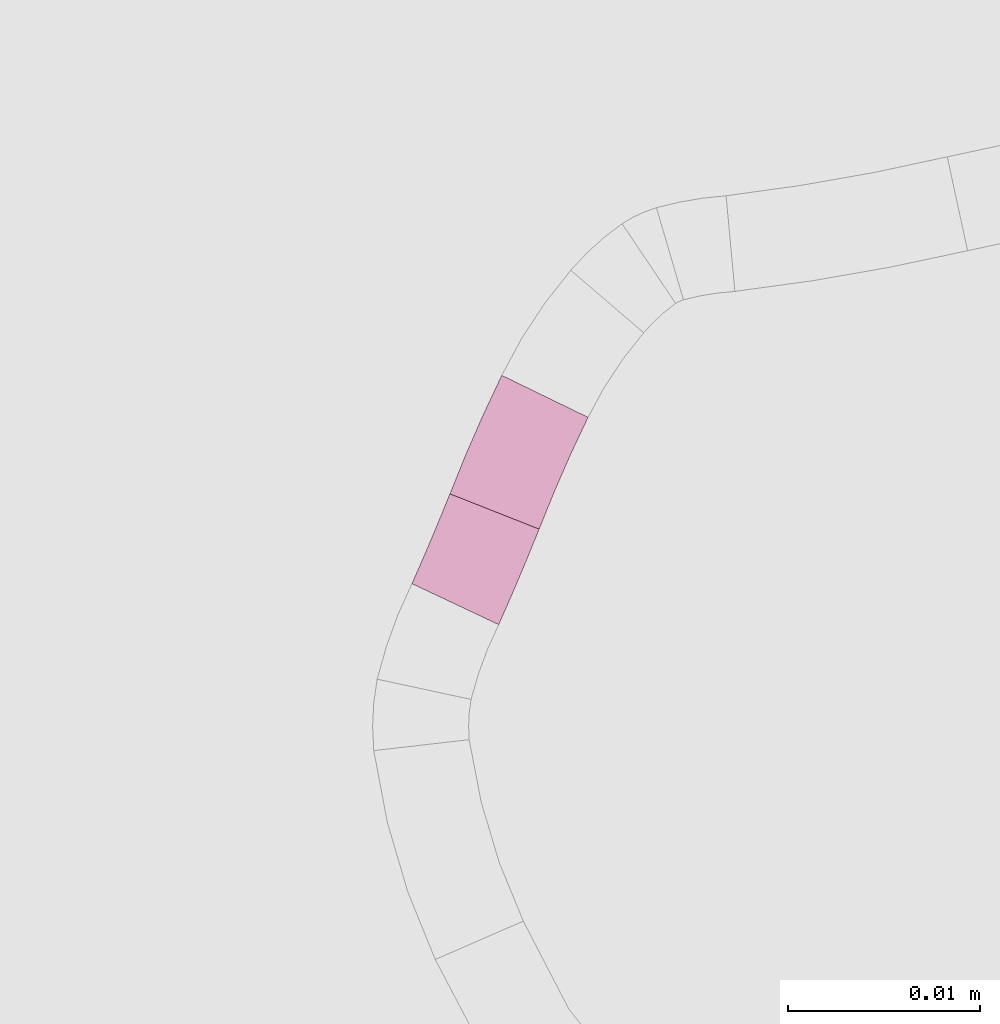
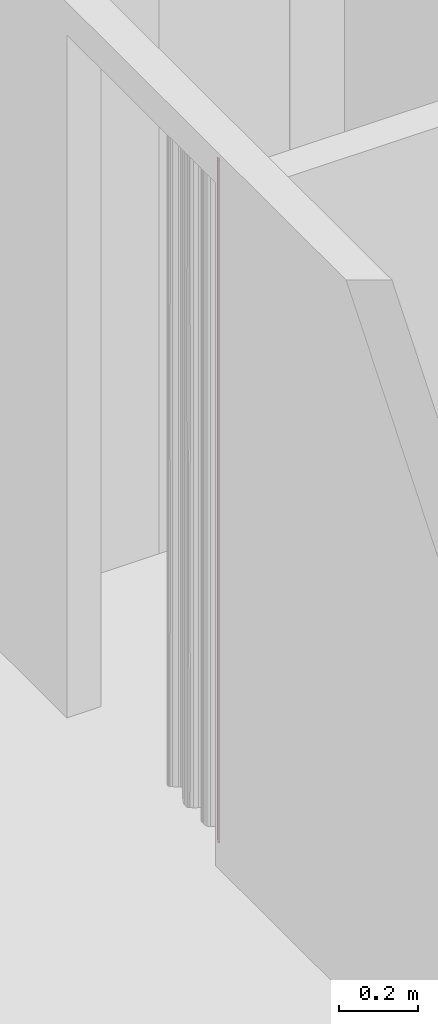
# One storey, part 229 of 418: 2 furnishings.
"""IFC2X3 building model written with IfcOpenShell, lengths in millimetres."""

from ifc_helpers import new_model, entity, si_unit, converted_unit, derived_unit, money_unit, point, direction, frame, frame_2d, origin_with_axes, place, context, subcontext, project, spatial, polyline, circle_curve, parameter, trimmed, segment, composite_curve, outline, extrude, material, type_object, element, save


model = new_model("IFC2X3")

# Units and contexts
model_context = context("Model", 3, precision=0.01, world=origin_with_axes(), true_north=direction((0.0, 1.0)))
body_context = subcontext(model_context, "Body", "Model", "MODEL_VIEW")
ifc_project = project(units=[si_unit("LENGTHUNIT", "METRE", prefix="MILLI"), si_unit("AREAUNIT", "SQUARE_METRE"), si_unit("VOLUMEUNIT", "CUBIC_METRE"), converted_unit("PLANEANGLEUNIT", "DEGREE", entity("IfcPlaneAngleMeasure", 0.0174532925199), si_unit("PLANEANGLEUNIT", "RADIAN"), dimensions=[0, 0, 0, 0, 0, 0, 0]), si_unit("SOLIDANGLEUNIT", "STERADIAN"), money_unit("EUR"), converted_unit("TIMEUNIT", "Year", entity("IfcTimeMeasure", 31556926.0), si_unit("TIMEUNIT", "SECOND"), dimensions=[0, 0, 1, 0, 0, 0, 0]), si_unit("MASSUNIT", "GRAM", prefix="KILO"), si_unit("THERMODYNAMICTEMPERATUREUNIT", "DEGREE_CELSIUS"), si_unit("LUMINOUSINTENSITYUNIT", "LUMEN"), si_unit("ENERGYUNIT", "JOULE", prefix="MEGA"), derived_unit("THERMALCONDUCTANCEUNIT", [(si_unit("POWERUNIT", "WATT"), 1), (si_unit("LENGTHUNIT", "METRE"), -1), (si_unit("THERMODYNAMICTEMPERATUREUNIT", "KELVIN"), -1)]), derived_unit("SPECIFICHEATCAPACITYUNIT", [(si_unit("ENERGYUNIT", "JOULE"), 1), (si_unit("MASSUNIT", "GRAM", prefix="KILO"), -1), (si_unit("THERMODYNAMICTEMPERATUREUNIT", "KELVIN"), -1)]), derived_unit("MASSDENSITYUNIT", [(si_unit("MASSUNIT", "GRAM", prefix="KILO"), 1), (si_unit("VOLUMEUNIT", "CUBIC_METRE"), -1)])], contexts=[model_context])

# Site, building, storey
site_placement = place(None, origin_with_axes())
site = spatial("IfcSite", under=ifc_project, at=site_placement, Name="Paldiski mnt 245/1, Tallinn, Harjumaa", CompositionType="COMPLEX")
building_placement = place(site_placement, origin_with_axes())
building = spatial("IfcBuilding", under=site, at=building_placement, Name="RKAS Hoone üldnimetus (kasutust iseloomustav) -> IFC Project Manager -> SOLIBRI", CompositionType="ELEMENT")
storey_placement = place(building_placement, origin_with_axes())
storey = spatial("IfcBuildingStorey", under=building, at=storey_placement, Name="Esimene korrus", CompositionType="ELEMENT", Elevation=0.0)

# Furnishings
ifc_material = material(Name="KON-00_GENEERILINE - KONSTRUKTSIOON")
furniture_type = type_object("IfcFurnitureType", Name="KON-00_GENEERILINE - KONSTRUKTSIOON 5", AssemblyPlace="NOTDEFINED")
furnishing_1_placement = place(storey_placement, frame((-45062.6489745, -1272.53584612, 0.0), z_axis=(0.0, 0.0, 1.0), x_axis=(-0.438126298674, -0.898913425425, 0.0)))
element("IfcFurnishingElement", 1, at=furnishing_1_placement, inside=storey, type_object=furniture_type, material=ifc_material, Name="SS-35", context=body_context, shape_type="SweptSolid", body=[
    extrude(outline(composite_curve([segment(trimmed(circle_curve(frame_2d((0.0, 81.9410860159), x_axis=(0.0, -1.0)), 81.9410860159), [point((4.05009359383e-10, 0.0)), parameter(0.0)], [point((6.73259407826, 0.277056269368)), parameter(4.7129540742)], True, "CARTESIAN"), True, "CONTINUOUS"), segment(polyline([(6.73259407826, 0.277056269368), (6.34600573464, 5.26215195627)]), True, "CONTINUOUS"), segment(trimmed(circle_curve(frame_2d((0.0, 81.9410860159), x_axis=(-5.27694833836e-05, -0.999999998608)), 76.9410860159), [point((6.34600573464, 5.26215195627)), parameter(4.73408299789)], [point((-0.00406014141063, 5.00000010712)), parameter(0.0)], False, "CARTESIAN"), True, "CONTINUOUS"), segment(polyline([(-0.00406014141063, 5.00000010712), (4.05009359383e-10, 0.0)]), True, "CONTINUOUS")], self_intersect=False)), origin_with_axes(), (0.0, 0.0, 1.0), 2100.0),
])
furnishing_2_placement = place(storey_placement, frame((-45067.3281385, -1283.38731802, 0.0), z_axis=(0.0, 0.0, 1.0), x_axis=(0.406846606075, 0.913496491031, 0.0)))
element("IfcFurnishingElement", 2, at=furnishing_2_placement, inside=storey, type_object=furniture_type, material=ifc_material, Name="SS-36", context=body_context, shape_type="SweptSolid", body=[
    extrude(outline(composite_curve([segment(trimmed(circle_curve(frame_2d((0.0, 134.487881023), x_axis=(-0.000800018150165, -0.999999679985)), 139.487881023), [point((-0.11159283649, -4.99995536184)), parameter(0.0)], [point((5.29267622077, -4.89955216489)), parameter(2.22036939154)], True, "CARTESIAN"), True, "CONTINUOUS"), segment(polyline([(5.29267622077, -4.89955216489), (5.07833860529, 0.0959146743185)]), True, "CONTINUOUS"), segment(trimmed(circle_curve(frame_2d((-1.39986980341e-10, 134.487881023), x_axis=(0.0, -1.0)), 134.487881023), [point((5.07833860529, 0.0959146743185)), parameter(2.16403558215)], [point((0.0, 0.0)), parameter(0.0)], False, "CARTESIAN"), True, "CONTINUOUS"), segment(polyline([(0.0, 0.0), (-0.11159283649, -4.99995536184)]), True, "CONTINUOUS")], self_intersect=False)), origin_with_axes(), (0.0, 0.0, 1.0), 2100.0),
])

save(model, "model.ifc")
